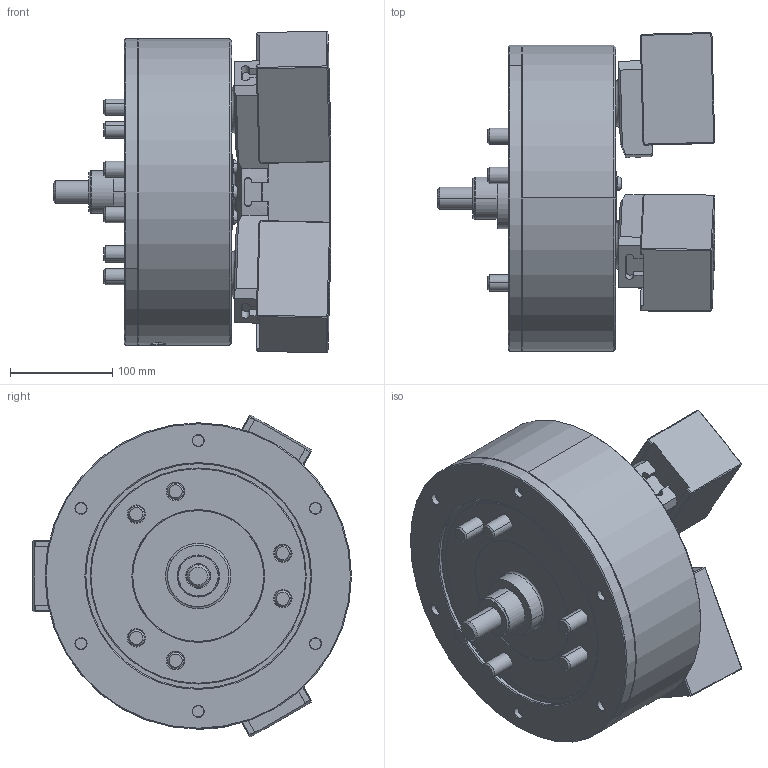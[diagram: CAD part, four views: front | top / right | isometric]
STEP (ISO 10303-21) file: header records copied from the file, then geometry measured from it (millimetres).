
FILE_DESCRIPTION (( 'STEP AP214' ), '1' );
FILE_NAME ('PW-12_OC_ID.STEP', '2025-08-18T07:01:01', ( '' ), ( '' ), 'SwSTEP 2.0', 'SolidWorks 2022', '' );
FILE_SCHEMA (( 'AUTOMOTIVE_DESIGN' ));
Length unit declared in the file: millimetre
Products named in the file (6): 0030116105; 0030116025; 61P420193; 結合_ID; PW-12_OC_ID; 61P323264
Assembly tree (19 placements, depth 2):
  PW-12_OC_ID
    61P323264  x3
    61P420193  x3
    0030116025  x6
    0030116105  x6
    結合_ID
Bounding box: 271.64 x 312.2 x 314.99 mm (x, y, z)
Volume: 9048462.7 mm3; surface area: 609699.4 mm2
Topology: 19 solids, 21 shells, 1626 faces, 4013 edges, 2545 vertices
Faces by surface type: plane 814, cone 334, cylinder 255, bspline 185, torus 36, sphere 2
Entity records: 46844 total; most frequent: CARTESIAN_POINT 17276, ORIENTED_EDGE 6402, DIRECTION 5383, EDGE_CURVE 3201, VERTEX_POINT 2055, AXIS2_PLACEMENT_3D 1799, LINE 1785, VECTOR 1785
